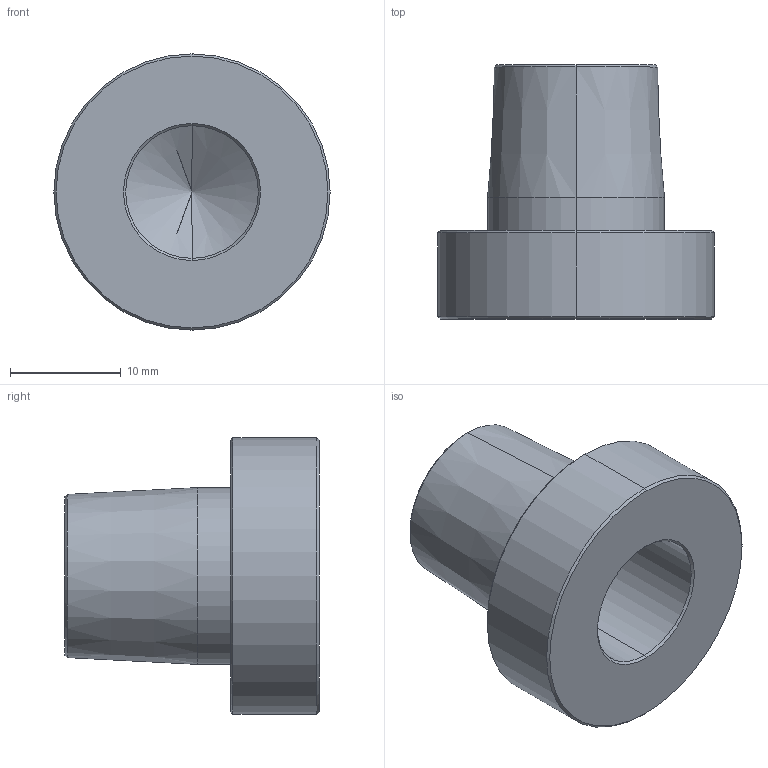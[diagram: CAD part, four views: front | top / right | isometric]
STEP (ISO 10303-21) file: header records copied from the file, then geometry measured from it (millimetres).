
FILE_DESCRIPTION (( 'STEP AP203' ), '1' );
FILE_NAME ('上部電極_SW-PN-UG12.STEP', '2022-04-04T05:00:31', ( '' ), ( '' ), 'SwSTEP 2.0', 'SolidWorks 2015', '' );
FILE_SCHEMA (( 'CONFIG_CONTROL_DESIGN' ));
Length unit declared in the file: millimetre
Products named in the file (2): 上部電極_SW-PN-UG12
Bounding box: 25 x 23 x 25 mm (x, y, z)
Volume: 4901.4 mm3; surface area: 2882.8 mm2
Topology: 1 solids, 1 shells, 27 faces, 56 edges, 30 vertices
Faces by surface type: cone 16, cylinder 8, plane 3
Entity records: 837 total; most frequent: DIRECTION 138, CARTESIAN_POINT 111, ORIENTED_EDGE 104, AXIS2_PLACEMENT_3D 57, EDGE_CURVE 52, EDGE_LOOP 30, VERTEX_POINT 30, CIRCLE 28
